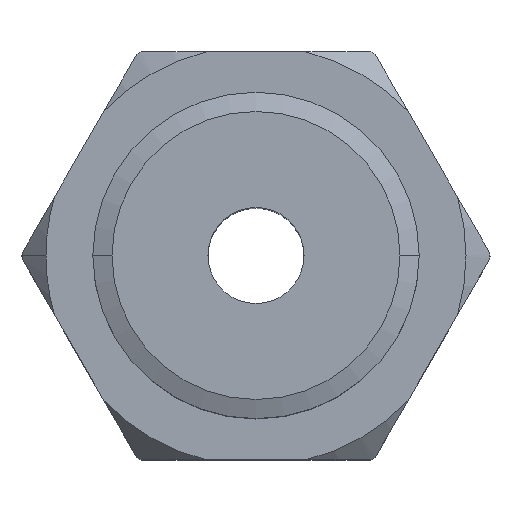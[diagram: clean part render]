
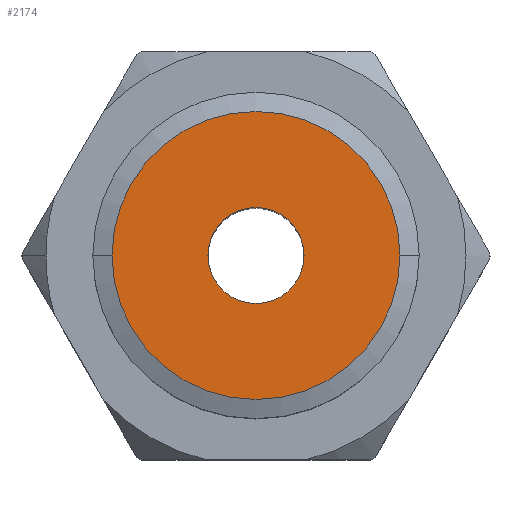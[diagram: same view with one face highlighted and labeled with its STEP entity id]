
A CAD part, top view. The second image highlights one B-rep face of the part: STEP entity #2174.
In plain terms, the highlighted planar face has unit normal (0, 0, 1).
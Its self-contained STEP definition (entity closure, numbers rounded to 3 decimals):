
#118 = FACE_BOUND ( 'NONE', #4016, .T. ) ;
#343 = CARTESIAN_POINT ( 'NONE',  ( 0., 0., 22. ) ) ;
#401 = CIRCLE ( 'NONE', #1511, 2. ) ;
#595 = ORIENTED_EDGE ( 'NONE', *, *, #2466, .F. ) ;
#609 = AXIS2_PLACEMENT_3D ( 'NONE', #1418, #4104, #3087 ) ;
#746 = FACE_OUTER_BOUND ( 'NONE', #1399, .T. ) ;
#828 = PLANE ( 'NONE',  #3447 ) ;
#895 = CIRCLE ( 'NONE', #3649, 2. ) ;
#907 = CARTESIAN_POINT ( 'NONE',  ( 0., 0., 22. ) ) ;
#964 = CIRCLE ( 'NONE', #609, 6. ) ;
#1005 = ORIENTED_EDGE ( 'NONE', *, *, #3071, .F. ) ;
#1105 = CARTESIAN_POINT ( 'NONE',  ( -6., 0., 22. ) ) ;
#1106 = CIRCLE ( 'NONE', #1583, 6. ) ;
#1399 = EDGE_LOOP ( 'NONE', ( #1005, #3459 ) ) ;
#1418 = CARTESIAN_POINT ( 'NONE',  ( 0., 0., 22. ) ) ;
#1459 = DIRECTION ( 'NONE',  ( 0., 0., -1. ) ) ;
#1511 = AXIS2_PLACEMENT_3D ( 'NONE', #907, #2581, #2892 ) ;
#1583 = AXIS2_PLACEMENT_3D ( 'NONE', #2409, #2037, #3079 ) ;
#1677 = VERTEX_POINT ( 'NONE', #2757 ) ;
#1728 = VERTEX_POINT ( 'NONE', #3765 ) ;
#1796 = VERTEX_POINT ( 'NONE', #1105 ) ;
#2037 = DIRECTION ( 'NONE',  ( 0., 0., -1. ) ) ;
#2174 = ADVANCED_FACE ( 'NONE', ( #118, #746 ), #828, .F. ) ;
#2409 = CARTESIAN_POINT ( 'NONE',  ( 0., 0., 22. ) ) ;
#2466 = EDGE_CURVE ( 'NONE', #1677, #3777, #895, .T. ) ;
#2581 = DIRECTION ( 'NONE',  ( 0., 0., 1. ) ) ;
#2597 = ORIENTED_EDGE ( 'NONE', *, *, #3768, .F. ) ;
#2627 = DIRECTION ( 'NONE',  ( 0., 0., 1. ) ) ;
#2757 = CARTESIAN_POINT ( 'NONE',  ( -2., 0., 22. ) ) ;
#2815 = DIRECTION ( 'NONE',  ( -1., 0., 0. ) ) ;
#2892 = DIRECTION ( 'NONE',  ( -1., 0., 0. ) ) ;
#3071 = EDGE_CURVE ( 'NONE', #1796, #1728, #964, .T. ) ;
#3079 = DIRECTION ( 'NONE',  ( -1., 0., 0. ) ) ;
#3087 = DIRECTION ( 'NONE',  ( -1., 0., 0. ) ) ;
#3447 = AXIS2_PLACEMENT_3D ( 'NONE', #3523, #1459, #2815 ) ;
#3459 = ORIENTED_EDGE ( 'NONE', *, *, #3504, .F. ) ;
#3504 = EDGE_CURVE ( 'NONE', #1728, #1796, #1106, .T. ) ;
#3523 = CARTESIAN_POINT ( 'NONE',  ( 0., 0., 22. ) ) ;
#3649 = AXIS2_PLACEMENT_3D ( 'NONE', #343, #2627, #4097 ) ;
#3765 = CARTESIAN_POINT ( 'NONE',  ( 6., 0., 22. ) ) ;
#3768 = EDGE_CURVE ( 'NONE', #3777, #1677, #401, .T. ) ;
#3777 = VERTEX_POINT ( 'NONE', #3997 ) ;
#3997 = CARTESIAN_POINT ( 'NONE',  ( 2., 0., 22. ) ) ;
#4016 = EDGE_LOOP ( 'NONE', ( #595, #2597 ) ) ;
#4097 = DIRECTION ( 'NONE',  ( -1., 0., 0. ) ) ;
#4104 = DIRECTION ( 'NONE',  ( 0., 0., -1. ) ) ;
